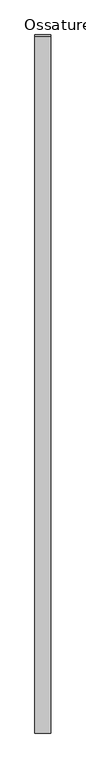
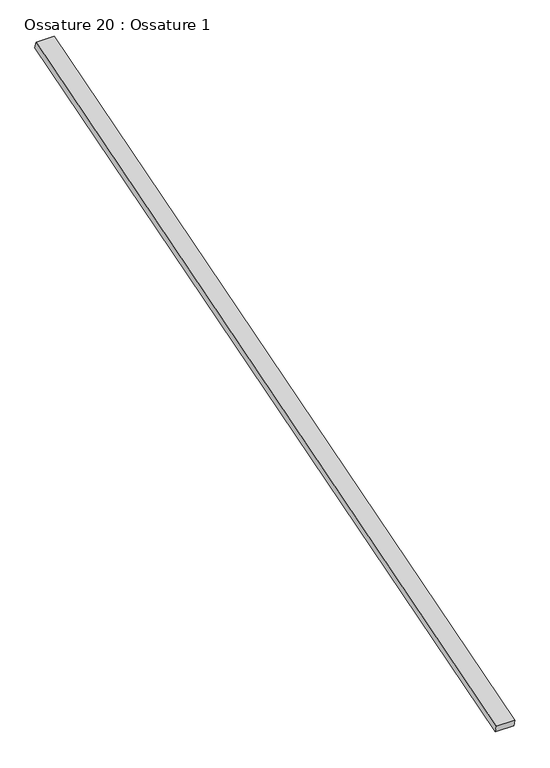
"""IFC4 building model written with IfcOpenShell, lengths in millimetres: beam geometry, Ossature 20 : Ossature 1."""

from ifc_helpers import new_model, si_unit, frame, origin, place, context, project, spatial, polyline, outline, extrude, source, transform, mapped, element, save


def ossature_20_ossature_1_ae59d45c(model_context):
    return source(origin(), model_context, "Body", "SweptSolid", [
        extrude(outline(polyline([(0.0, 0.0), (0.0, -4543.0299679), (-100.0, -4543.0299679), (-100.0, 0.0), (0.0, 0.0)])), frame((5071.6466393, -833.3913565, 8153.6336115), z_axis=(0.0, -0.28734788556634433, 0.9578262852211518), x_axis=(-1.0, 0.0, 0.0)), (0.0, 0.0, 1.0), 40.0),
    ])


if __name__ == "__main__":
    model = new_model("IFC4")
    model_context = context("Model", 3, world=origin())
    ifc_project = project(units=[si_unit("LENGTHUNIT", "METRE", prefix="MILLI")], contexts=[model_context])
    site = spatial("IfcSite", under=ifc_project)
    building = spatial("IfcBuilding", under=site)
    placement = place(None, origin())
    ossature_20_ossature_1_shape = ossature_20_ossature_1_ae59d45c(model_context)
    element("IfcBeam", 1, ObjectType="Ossature 20 : Ossature 1", at=placement, inside=building, context=model_context, shape_type="MappedRepresentation", body=[
        mapped(ossature_20_ossature_1_shape, transform((0.0, 0.0, 0.0), x_axis=(1.0, 0.0, 0.0), y_axis=(0.0, 1.0, 0.0), z_axis=(0.0, 0.0, 1.0))),
    ])
    save(model, "model.ifc")
